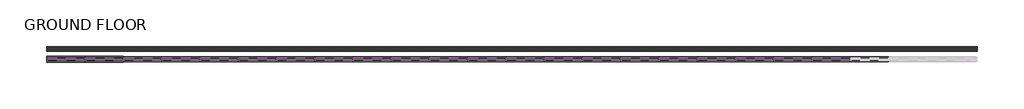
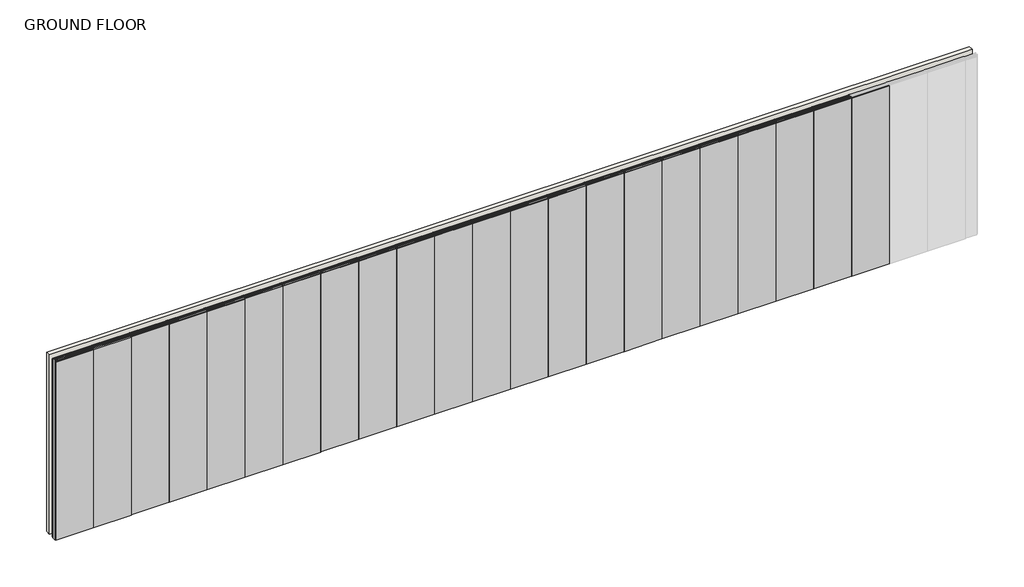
# One storey, part 1 of 2: 63 members, 22 plates, 1 wall.
"""IFC4 building model written with IfcOpenShell, lengths in millimetres."""

import ifcopenshell
import ifcopenshell.guid

model = None  # the IFC model being written
_history = None  # IfcOwnerHistory: only IFC2X3 demands one
_inside = {}  # id of a spatial element -> (the spatial element, [elements in it])
_under = {}  # id of a project, library or spatial element -> (it, [spatial elements below it])
_declared = {}  # id of a project -> (the project, [libraries it declares])
_typed = {}  # id of a type object -> (the type object, [elements of that type])
_made_of = {}  # id of a material, layer set ... -> (it, [elements and type objects made of it])


def new_model(schema):
    """Start an empty IFC model of exactly this schema.

    Asked for "IFC4X3", IfcOpenShell would pick the latest addendum, in which some entities
    have other attributes; the version numbers below select the first issue.
    IFC2X3 requires an IfcOwnerHistory on every rooted entity: one is made here for all.
    """
    global model, _history
    if schema == "IFC4X3":
        model = ifcopenshell.file(schema_version=(4, 3, 0, 0))
    else:
        model = ifcopenshell.file(schema=schema)
    _inside.clear()
    _under.clear()
    _declared.clear()
    _typed.clear()
    _made_of.clear()
    _history = None
    if model.schema == "IFC2X3":
        org = make("IfcOrganization", Name="unknown")
        user = make(
            "IfcPersonAndOrganization",
            ThePerson=make("IfcPerson", FamilyName="unknown"),
            TheOrganization=org,
        )
        app = make(
            "IfcApplication",
            ApplicationDeveloper=org,
            Version="unknown",
            ApplicationFullName="unknown",
            ApplicationIdentifier="unknown",
        )
        _history = make(
            "IfcOwnerHistory",
            OwningUser=user,
            OwningApplication=app,
            ChangeAction="ADDED",
            CreationDate=0,
        )
    return model


def make(cls, **values):
    """One entity of the class cls with the attributes given. An attribute that is None is left unset."""
    return model.create_entity(
        cls, **{name: value for name, value in values.items() if value is not None}
    )


def rooted(cls, **values):
    """An entity with a GlobalId (a new one), such as an element, a storey or a relation."""
    return make(cls, GlobalId=ifcopenshell.guid.new(), OwnerHistory=_history, **values)


def si_unit(unit_type, name, prefix=None):
    """IfcSIUnit, for example si_unit("LENGTHUNIT", "METRE", prefix="MILLI")."""
    return make("IfcSIUnit", UnitType=unit_type, Prefix=prefix, Name=name)


def assignment(units):
    """IfcUnitAssignment: the units of a project."""
    return None if units is None else make("IfcUnitAssignment", Units=units)


def point(xyz):
    """IfcCartesianPoint."""
    return None if xyz is None else make("IfcCartesianPoint", Coordinates=xyz)


def direction(xyz):
    """IfcDirection."""
    return None if xyz is None else make("IfcDirection", DirectionRatios=xyz)


def frame(location, z_axis=None, x_axis=None):
    """IfcAxis2Placement3D, a coordinate frame: its origin and axes. An axis left out is left unset."""
    return make(
        "IfcAxis2Placement3D",
        Location=point(location),
        Axis=direction(z_axis),
        RefDirection=direction(x_axis),
    )


def origin():
    """The frame at (0, 0, 0) with its axes left unset."""
    return frame((0.0, 0.0, 0.0))


def origin_with_axes():
    """The frame at (0, 0, 0) with the z axis (0, 0, 1) and the x axis (1, 0, 0) written out."""
    return frame((0.0, 0.0, 0.0), z_axis=(0.0, 0.0, 1.0), x_axis=(1.0, 0.0, 0.0))


def place(relative_to, where):
    """IfcLocalPlacement: puts the frame where relative to a parent placement (None: the world)."""
    return make(
        "IfcLocalPlacement", PlacementRelTo=relative_to, RelativePlacement=where
    )


def context(
    kind, dimensions, precision=None, world=None, true_north=None, identifier=None
):
    """IfcGeometricRepresentationContext, for example the 3D "Model" context."""
    return make(
        "IfcGeometricRepresentationContext",
        ContextIdentifier=identifier,
        ContextType=kind,
        CoordinateSpaceDimension=dimensions,
        Precision=precision,
        WorldCoordinateSystem=world,
        TrueNorth=true_north,
    )


def project(units=None, contexts=None):
    """IfcProject with its units and contexts."""
    return rooted(
        "IfcProject",
        Name="project",
        RepresentationContexts=contexts,
        UnitsInContext=assignment(units),
    )


def spatial(cls, under=None, at=None, **own):
    """A site, building, storey or space (cls), placed at a placement, below another one or the project."""
    s = rooted(cls, ObjectPlacement=at, **own)
    if under is not None:
        _under.setdefault(under.id(), (under, []))[1].append(s)
    return s


def polyline(points):
    """IfcPolyline through the points."""
    return make("IfcPolyline", Points=[point(p) for p in points])


def outline(outer, holes=None, kind="AREA"):
    """IfcArbitraryClosedProfileDef: a profile drawn as a closed curve; with holes, ...WithVoids."""
    if holes is None:
        return make("IfcArbitraryClosedProfileDef", ProfileType=kind, OuterCurve=outer)
    return make(
        "IfcArbitraryProfileDefWithVoids",
        ProfileType=kind,
        OuterCurve=outer,
        InnerCurves=holes,
    )


def extrude(swept, where, along, depth):
    """IfcExtrudedAreaSolid: the profile swept, set in the frame where, extruded along a direction by depth."""
    return make(
        "IfcExtrudedAreaSolid",
        SweptArea=swept,
        Position=where,
        ExtrudedDirection=direction(along),
        Depth=depth,
    )


def shape(context_of_items, identifier, shape_type, items):
    """IfcShapeRepresentation: the items that make up one representation, for example the "Body"."""
    return make(
        "IfcShapeRepresentation",
        ContextOfItems=context_of_items,
        RepresentationIdentifier=identifier,
        RepresentationType=shape_type,
        Items=items,
    )


def source(mapping_origin, context_of_items, identifier, shape_type, items):
    """IfcRepresentationMap: a shape defined once, which mapped items show again and again."""
    return make(
        "IfcRepresentationMap",
        MappingOrigin=mapping_origin,
        MappedRepresentation=shape(context_of_items, identifier, shape_type, items),
    )


def transform(
    local_origin,
    x_axis=None,
    y_axis=None,
    z_axis=None,
    scale=None,
    scale2=None,
    scale3=None,
    uniform=True,
):
    """IfcCartesianTransformationOperator3D, or its non-uniform kind. x_axis, y_axis, z_axis: its Axis1, 2, 3."""
    if uniform:
        return make(
            "IfcCartesianTransformationOperator3D",
            Axis1=direction(x_axis),
            Axis2=direction(y_axis),
            LocalOrigin=point(local_origin),
            Scale=scale,
            Axis3=direction(z_axis),
        )
    return make(
        "IfcCartesianTransformationOperator3DnonUniform",
        Axis1=direction(x_axis),
        Axis2=direction(y_axis),
        LocalOrigin=point(local_origin),
        Scale=scale,
        Axis3=direction(z_axis),
        Scale2=scale2,
        Scale3=scale3,
    )


def mapped(mapping_source, mapping_target):
    """IfcMappedItem: shows the shape of a source again, moved by a transform."""
    return make(
        "IfcMappedItem", MappingSource=mapping_source, MappingTarget=mapping_target
    )


def made_of(thing, what):
    """Note that an element or type object is made of a material, layer set ...; save() writes the relation."""
    if what is not None:
        _made_of.setdefault(what.id(), (what, []))[1].append(thing)
    return thing


def element(
    cls,
    number,
    at=None,
    inside=None,
    cuts=None,
    type_object=None,
    material=None,
    context=None,
    identifier="Body",
    shape_type=None,
    held_by="IfcProductDefinitionShape",
    body=None,
    shapes=None,
    **own,
):
    """One element of the class cls, such as IfcWall. Its Tag is "e" and its number.

    at: its placement. inside: the storey or other place that contains it. cuts: it is an
    opening in that element (IfcRelVoidsElement). A single representation is given by context,
    identifier, shape_type and body (its items); several are given by shapes. held_by: the class
    of the entity that holds the representations. save() writes the other relations.
    """
    e = rooted(cls, Tag="e%d" % number, ObjectPlacement=at, **own)
    if body is not None:
        shapes = [shape(context, identifier, shape_type, body)]
    if shapes is not None:
        e.Representation = make(held_by, Representations=shapes)
    if inside is not None:
        _inside.setdefault(inside.id(), (inside, []))[1].append(e)
    if cuts is not None:
        rooted(
            "IfcRelVoidsElement", RelatingBuildingElement=cuts, RelatedOpeningElement=e
        )
    if type_object is not None:
        _typed.setdefault(type_object.id(), (type_object, []))[1].append(e)
    return made_of(e, material)


def aggregate(whole, parts):
    """IfcRelAggregates: a whole, such as a stair, and the parts it consists of."""
    return rooted("IfcRelAggregates", RelatingObject=whole, RelatedObjects=parts)


def save(model, path):
    """Write the relations noted so far, then the file.

    IfcRelAggregates (storeys below a building ...), IfcRelContainedInSpatialStructure (elements
    in a storey), IfcRelDefinesByType, IfcRelAssociatesMaterial and IfcRelDeclares: one each for
    every whole, place, type object, material and project.
    """
    for whole, parts in _under.values():
        aggregate(whole, parts)
    for where, things in _inside.values():
        rooted(
            "IfcRelContainedInSpatialStructure",
            RelatedElements=things,
            RelatingStructure=where,
        )
    for kind, things in _typed.values():
        rooted("IfcRelDefinesByType", RelatedObjects=things, RelatingType=kind)
    for what, things in _made_of.values():
        rooted("IfcRelAssociatesMaterial", RelatedObjects=things, RelatingMaterial=what)
    for by, libraries in _declared.values():
        rooted("IfcRelDeclares", RelatingContext=by, RelatedDefinitions=libraries)
    model.write(path)


def rectangular_mullion_stud_mullion_51mm_2ef0a27f(model_context):
    return source(origin(), model_context, "Body", "SweptSolid", [
        extrude(outline(polyline([(-19.0, 17.5), (-19.0, 25.5), (0.0, 25.5), (0.0, -25.5), (-19.0, -25.5), (-19.0, -17.5), (-17.4, -17.5), (-17.4, -23.9), (-1.6, -23.9), (-1.6, 23.9), (-17.4, 23.9), (-17.4, 17.5), (-19.0, 17.5)])), frame((0.0, 0.0, -581.0000003), z_axis=(0.0, 0.0, 1.0), x_axis=(1.0, 0.0, 0.0)), (0.0, 0.0, 1.0), 581.0000003),
    ])


def rectangular_mullion_stud_mullion_51mm_a2fb9e12(model_context):
    return source(origin(), model_context, "Body", "SweptSolid", [
        extrude(outline(polyline([(-19.0, 17.5), (-19.0, 25.5), (0.0, 25.5), (0.0, -25.5), (-19.0, -25.5), (-19.0, -17.5), (-17.4, -17.5), (-17.4, -23.9), (-1.6, -23.9), (-1.6, 23.9), (-17.4, 23.9), (-17.4, 17.5), (-19.0, 17.5)])), frame((0.0, 0.0, -3000.0), z_axis=(0.0, 0.0, 1.0), x_axis=(1.0, 0.0, 0.0)), (0.0, 0.0, 1.0), 3000.0),
    ])


def rectangular_mullion_stud_mullion_51mm_92998b61(model_context):
    return source(origin(), model_context, "Body", "SweptSolid", [
        extrude(outline(polyline([(0.0, 17.5), (-1.6, 17.5), (-1.6, 23.9), (-17.4, 23.9), (-17.4, -23.9), (-1.6, -23.9), (-1.6, -17.5), (0.0, -17.5), (0.0, -25.5), (-19.0, -25.5), (-19.0, 25.5), (0.0, 25.5), (0.0, 17.5)])), frame((0.0, 0.0, -581.0000003), z_axis=(0.0, 0.0, 1.0), x_axis=(1.0, 0.0, 0.0)), (0.0, 0.0, 1.0), 581.0000003),
    ])


def rectangular_mullion_stud_mullion_51mm_8a3d9f1b(model_context):
    return source(origin(), model_context, "Body", "SweptSolid", [
        extrude(outline(polyline([(9.5, 17.5), (7.9, 17.5), (7.9, 23.9), (-7.9, 23.9), (-7.9, -23.9), (7.9, -23.9), (7.9, -17.5), (9.5, -17.5), (9.5, -25.5), (-9.5, -25.5), (-9.5, 25.5), (9.5, 25.5), (9.5, 17.5)])), frame((0.0, 0.0, -3000.0), z_axis=(0.0, 0.0, 1.0), x_axis=(1.0, 0.0, 0.0)), (0.0, 0.0, 1.0), 3000.0),
    ])


def plate_2_layer_drywall_panels_2_layer_12mm_thick_drywall_9ebc670e(model_context):
    return source(origin(), model_context, "Body", "SweptSolid", [
        extrude(outline(polyline([(299.2, 25.5), (-299.2, 25.5), (-299.2, 37.5), (299.2, 37.5), (299.2, 25.5)])), origin_with_axes(), (0.0, 0.0, 1.0), 2979.4),
        extrude(outline(polyline([(299.2, -25.5), (299.2, -37.5), (-299.2, -37.5), (-299.2, -25.5), (299.2, -25.5)])), origin_with_axes(), (0.0, 0.0, 1.0), 2979.4),
    ])


def plate_2_layer_drywall_panels_2_layer_15mm_drywall_panels_7b1b0b35(model_context):
    return source(origin(), model_context, "Body", "SweptSolid", [
        extrude(outline(polyline([(299.2000002, 31.5), (-299.2000002, 31.5), (-299.2000002, 46.5), (299.2000002, 46.5), (299.2000002, 31.5)])), origin_with_axes(), (0.0, 0.0, 1.0), 2979.4),
        extrude(outline(polyline([(299.2000002, -31.5), (299.2000002, -46.5), (-299.2000002, -46.5), (-299.2000002, -31.5), (299.2000002, -31.5)])), origin_with_axes(), (0.0, 0.0, 1.0), 2979.4),
    ])


model = new_model("IFC4")

# Units and contexts
model_context = context("Model", 3, world=origin())
ifc_project = project(units=[si_unit("LENGTHUNIT", "METRE", prefix="MILLI")], contexts=[model_context])

# Site, building, storey
site = spatial("IfcSite", under=ifc_project)
building = spatial("IfcBuilding", under=site)
storey = spatial("IfcBuildingStorey", under=building, Name="GROUND FLOOR", Elevation=0.0)

# Members
placement = place(None, origin())
rectangular_mullion_stud_mullion_51mm_shape = rectangular_mullion_stud_mullion_51mm_2ef0a27f(model_context)
element("IfcMember", 1, ObjectType="Rectangular Mullion : Stud Mullion - 51mm", at=placement, inside=storey, context=model_context, shape_type="MappedRepresentation", body=[
    mapped(rectangular_mullion_stud_mullion_51mm_shape, transform((61654.5186508, -1259.4010443, 0.0), x_axis=(0.0, 0.0, -1.0), y_axis=(0.0, -1.0, 0.0), z_axis=(-1.0, 0.0, 0.0))),
])
element("IfcMember", 2, ObjectType="Rectangular Mullion : Stud Mullion - 51mm", at=placement, inside=storey, context=model_context, shape_type="MappedRepresentation", body=[
    mapped(rectangular_mullion_stud_mullion_51mm_shape, transform((62254.5186511, -1259.4010443, 0.0), x_axis=(0.0, 0.0, -1.0), y_axis=(0.0, -1.0, 0.0), z_axis=(-1.0, 0.0, 0.0))),
])
element("IfcMember", 3, ObjectType="Rectangular Mullion : Stud Mullion - 51mm", at=placement, inside=storey, context=model_context, shape_type="MappedRepresentation", body=[
    mapped(rectangular_mullion_stud_mullion_51mm_shape, transform((62854.5186511, -1259.4010443, 0.0), x_axis=(0.0, 0.0, -1.0), y_axis=(0.0, -1.0, 0.0), z_axis=(-1.0, 0.0, 0.0))),
])
element("IfcMember", 4, ObjectType="Rectangular Mullion : Stud Mullion - 51mm", at=placement, inside=storey, context=model_context, shape_type="MappedRepresentation", body=[
    mapped(rectangular_mullion_stud_mullion_51mm_shape, transform((63454.5186511, -1259.4010443, 0.0), x_axis=(0.0, 0.0, -1.0), y_axis=(0.0, -1.0, 0.0), z_axis=(-1.0, 0.0, 0.0))),
])
element("IfcMember", 5, ObjectType="Rectangular Mullion : Stud Mullion - 51mm", at=placement, inside=storey, context=model_context, shape_type="MappedRepresentation", body=[
    mapped(rectangular_mullion_stud_mullion_51mm_shape, transform((64054.5186511, -1259.4010443, 0.0), x_axis=(0.0, 0.0, -1.0), y_axis=(0.0, -1.0, 0.0), z_axis=(-1.0, 0.0, 0.0))),
])
element("IfcMember", 6, ObjectType="Rectangular Mullion : Stud Mullion - 51mm", at=placement, inside=storey, context=model_context, shape_type="MappedRepresentation", body=[
    mapped(rectangular_mullion_stud_mullion_51mm_shape, transform((64654.5186511, -1259.4010443, 0.0), x_axis=(0.0, 0.0, -1.0), y_axis=(0.0, -1.0, 0.0), z_axis=(-1.0, 0.0, 0.0))),
])
element("IfcMember", 7, ObjectType="Rectangular Mullion : Stud Mullion - 51mm", at=placement, inside=storey, context=model_context, shape_type="MappedRepresentation", body=[
    mapped(rectangular_mullion_stud_mullion_51mm_shape, transform((65254.5186511, -1259.4010443, 0.0), x_axis=(0.0, 0.0, -1.0), y_axis=(0.0, -1.0, 0.0), z_axis=(-1.0, 0.0, 0.0))),
])
element("IfcMember", 8, ObjectType="Rectangular Mullion : Stud Mullion - 51mm", at=placement, inside=storey, context=model_context, shape_type="MappedRepresentation", body=[
    mapped(rectangular_mullion_stud_mullion_51mm_shape, transform((65854.5186511, -1259.4010443, 0.0), x_axis=(0.0, 0.0, -1.0), y_axis=(0.0, -1.0, 0.0), z_axis=(-1.0, 0.0, 0.0))),
])
element("IfcMember", 9, ObjectType="Rectangular Mullion : Stud Mullion - 51mm", at=placement, inside=storey, context=model_context, shape_type="MappedRepresentation", body=[
    mapped(rectangular_mullion_stud_mullion_51mm_shape, transform((66454.5186511, -1259.4010443, 0.0), x_axis=(0.0, 0.0, -1.0), y_axis=(0.0, -1.0, 0.0), z_axis=(-1.0, 0.0, 0.0))),
])
element("IfcMember", 10, ObjectType="Rectangular Mullion : Stud Mullion - 51mm", at=placement, inside=storey, context=model_context, shape_type="MappedRepresentation", body=[
    mapped(rectangular_mullion_stud_mullion_51mm_shape, transform((67054.5186511, -1259.4010443, 0.0), x_axis=(0.0, 0.0, -1.0), y_axis=(0.0, -1.0, 0.0), z_axis=(-1.0, 0.0, 0.0))),
])
element("IfcMember", 11, ObjectType="Rectangular Mullion : Stud Mullion - 51mm", at=placement, inside=storey, context=model_context, shape_type="MappedRepresentation", body=[
    mapped(rectangular_mullion_stud_mullion_51mm_shape, transform((67654.5186511, -1259.4010443, 0.0), x_axis=(0.0, 0.0, -1.0), y_axis=(0.0, -1.0, 0.0), z_axis=(-1.0, 0.0, 0.0))),
])
element("IfcMember", 12, ObjectType="Rectangular Mullion : Stud Mullion - 51mm", at=placement, inside=storey, context=model_context, shape_type="MappedRepresentation", body=[
    mapped(rectangular_mullion_stud_mullion_51mm_shape, transform((68254.5186511, -1259.4010443, 0.0), x_axis=(0.0, 0.0, -1.0), y_axis=(0.0, -1.0, 0.0), z_axis=(-1.0, 0.0, 0.0))),
])
element("IfcMember", 13, ObjectType="Rectangular Mullion : Stud Mullion - 51mm", at=placement, inside=storey, context=model_context, shape_type="MappedRepresentation", body=[
    mapped(rectangular_mullion_stud_mullion_51mm_shape, transform((68854.5186511, -1259.4010443, 0.0), x_axis=(0.0, 0.0, -1.0), y_axis=(0.0, -1.0, 0.0), z_axis=(-1.0, 0.0, 0.0))),
])
element("IfcMember", 14, ObjectType="Rectangular Mullion : Stud Mullion - 51mm", at=placement, inside=storey, context=model_context, shape_type="MappedRepresentation", body=[
    mapped(rectangular_mullion_stud_mullion_51mm_shape, transform((69454.5186511, -1259.4010443, 0.0), x_axis=(0.0, 0.0, -1.0), y_axis=(0.0, -1.0, 0.0), z_axis=(-1.0, 0.0, 0.0))),
])
element("IfcMember", 15, ObjectType="Rectangular Mullion : Stud Mullion - 51mm", at=placement, inside=storey, context=model_context, shape_type="MappedRepresentation", body=[
    mapped(rectangular_mullion_stud_mullion_51mm_shape, transform((70054.5186511, -1259.4010443, 0.0), x_axis=(0.0, 0.0, -1.0), y_axis=(0.0, -1.0, 0.0), z_axis=(-1.0, 0.0, 0.0))),
])
element("IfcMember", 16, ObjectType="Rectangular Mullion : Stud Mullion - 51mm", at=placement, inside=storey, context=model_context, shape_type="MappedRepresentation", body=[
    mapped(rectangular_mullion_stud_mullion_51mm_shape, transform((70654.5186511, -1259.4010443, 0.0), x_axis=(0.0, 0.0, -1.0), y_axis=(0.0, -1.0, 0.0), z_axis=(-1.0, 0.0, 0.0))),
])
element("IfcMember", 17, ObjectType="Rectangular Mullion : Stud Mullion - 51mm", at=placement, inside=storey, context=model_context, shape_type="MappedRepresentation", body=[
    mapped(rectangular_mullion_stud_mullion_51mm_shape, transform((71254.5186511, -1259.4010443, 0.0), x_axis=(0.0, 0.0, -1.0), y_axis=(0.0, -1.0, 0.0), z_axis=(-1.0, 0.0, 0.0))),
])
element("IfcMember", 18, ObjectType="Rectangular Mullion : Stud Mullion - 51mm", at=placement, inside=storey, context=model_context, shape_type="MappedRepresentation", body=[
    mapped(rectangular_mullion_stud_mullion_51mm_shape, transform((71854.5186511, -1259.4010443, 0.0), x_axis=(0.0, 0.0, -1.0), y_axis=(0.0, -1.0, 0.0), z_axis=(-1.0, 0.0, 0.0))),
])
element("IfcMember", 19, ObjectType="Rectangular Mullion : Stud Mullion - 51mm", at=placement, inside=storey, context=model_context, shape_type="MappedRepresentation", body=[
    mapped(rectangular_mullion_stud_mullion_51mm_shape, transform((72454.5186511, -1259.4010443, 0.0), x_axis=(0.0, 0.0, -1.0), y_axis=(0.0, -1.0, 0.0), z_axis=(-1.0, 0.0, 0.0))),
])
element("IfcMember", 20, ObjectType="Rectangular Mullion : Stud Mullion - 51mm", at=placement, inside=storey, context=model_context, shape_type="MappedRepresentation", body=[
    mapped(rectangular_mullion_stud_mullion_51mm_shape, transform((73054.5186511, -1259.4010443, 0.0), x_axis=(0.0, 0.0, -1.0), y_axis=(0.0, -1.0, 0.0), z_axis=(-1.0, 0.0, 0.0))),
])
element("IfcMember", 21, ObjectType="Rectangular Mullion : Stud Mullion - 51mm", at=placement, inside=storey, context=model_context, shape_type="MappedRepresentation", body=[
    mapped(rectangular_mullion_stud_mullion_51mm_shape, transform((73654.5186511, -1259.4010443, 0.0), x_axis=(0.0, 0.0, -1.0), y_axis=(0.0, -1.0, 0.0), z_axis=(-1.0, 0.0, 0.0))),
])
rectangular_mullion_stud_mullion_51mm_2_shape = rectangular_mullion_stud_mullion_51mm_a2fb9e12(model_context)
element("IfcMember", 22, ObjectType="Rectangular Mullion : Stud Mullion - 51mm", at=placement, inside=storey, context=model_context, shape_type="MappedRepresentation", body=[
    mapped(rectangular_mullion_stud_mullion_51mm_2_shape, transform((61635.5186508, -1259.4010443, 3000.0), x_axis=(-1.0, 0.0, 0.0), y_axis=(0.0, -1.0, 0.0), z_axis=(0.0, 0.0, 1.0))),
])
rectangular_mullion_stud_mullion_51mm_3_shape = rectangular_mullion_stud_mullion_51mm_92998b61(model_context)
element("IfcMember", 23, ObjectType="Rectangular Mullion : Stud Mullion - 51mm", at=placement, inside=storey, context=model_context, shape_type="MappedRepresentation", body=[
    mapped(rectangular_mullion_stud_mullion_51mm_3_shape, transform((62235.5186511, -1259.4010443, 3000.0), x_axis=(0.0, 0.0, 1.0), y_axis=(0.0, -1.0, 0.0), z_axis=(1.0, 0.0, 0.0))),
])
element("IfcMember", 24, ObjectType="Rectangular Mullion : Stud Mullion - 51mm", at=placement, inside=storey, context=model_context, shape_type="MappedRepresentation", body=[
    mapped(rectangular_mullion_stud_mullion_51mm_3_shape, transform((62835.5186511, -1259.4010443, 3000.0), x_axis=(0.0, 0.0, 1.0), y_axis=(0.0, -1.0, 0.0), z_axis=(1.0, 0.0, 0.0))),
])
element("IfcMember", 25, ObjectType="Rectangular Mullion : Stud Mullion - 51mm", at=placement, inside=storey, context=model_context, shape_type="MappedRepresentation", body=[
    mapped(rectangular_mullion_stud_mullion_51mm_3_shape, transform((63435.5186511, -1259.4010443, 3000.0), x_axis=(0.0, 0.0, 1.0), y_axis=(0.0, -1.0, 0.0), z_axis=(1.0, 0.0, 0.0))),
])
element("IfcMember", 26, ObjectType="Rectangular Mullion : Stud Mullion - 51mm", at=placement, inside=storey, context=model_context, shape_type="MappedRepresentation", body=[
    mapped(rectangular_mullion_stud_mullion_51mm_3_shape, transform((64035.5186511, -1259.4010443, 3000.0), x_axis=(0.0, 0.0, 1.0), y_axis=(0.0, -1.0, 0.0), z_axis=(1.0, 0.0, 0.0))),
])
element("IfcMember", 27, ObjectType="Rectangular Mullion : Stud Mullion - 51mm", at=placement, inside=storey, context=model_context, shape_type="MappedRepresentation", body=[
    mapped(rectangular_mullion_stud_mullion_51mm_3_shape, transform((64635.5186511, -1259.4010443, 3000.0), x_axis=(0.0, 0.0, 1.0), y_axis=(0.0, -1.0, 0.0), z_axis=(1.0, 0.0, 0.0))),
])
element("IfcMember", 28, ObjectType="Rectangular Mullion : Stud Mullion - 51mm", at=placement, inside=storey, context=model_context, shape_type="MappedRepresentation", body=[
    mapped(rectangular_mullion_stud_mullion_51mm_3_shape, transform((65235.5186511, -1259.4010443, 3000.0), x_axis=(0.0, 0.0, 1.0), y_axis=(0.0, -1.0, 0.0), z_axis=(1.0, 0.0, 0.0))),
])
element("IfcMember", 29, ObjectType="Rectangular Mullion : Stud Mullion - 51mm", at=placement, inside=storey, context=model_context, shape_type="MappedRepresentation", body=[
    mapped(rectangular_mullion_stud_mullion_51mm_3_shape, transform((65835.5186511, -1259.4010443, 3000.0), x_axis=(0.0, 0.0, 1.0), y_axis=(0.0, -1.0, 0.0), z_axis=(1.0, 0.0, 0.0))),
])
element("IfcMember", 30, ObjectType="Rectangular Mullion : Stud Mullion - 51mm", at=placement, inside=storey, context=model_context, shape_type="MappedRepresentation", body=[
    mapped(rectangular_mullion_stud_mullion_51mm_3_shape, transform((66435.5186511, -1259.4010443, 3000.0), x_axis=(0.0, 0.0, 1.0), y_axis=(0.0, -1.0, 0.0), z_axis=(1.0, 0.0, 0.0))),
])
element("IfcMember", 31, ObjectType="Rectangular Mullion : Stud Mullion - 51mm", at=placement, inside=storey, context=model_context, shape_type="MappedRepresentation", body=[
    mapped(rectangular_mullion_stud_mullion_51mm_3_shape, transform((67035.5186511, -1259.4010443, 3000.0), x_axis=(0.0, 0.0, 1.0), y_axis=(0.0, -1.0, 0.0), z_axis=(1.0, 0.0, 0.0))),
])
element("IfcMember", 32, ObjectType="Rectangular Mullion : Stud Mullion - 51mm", at=placement, inside=storey, context=model_context, shape_type="MappedRepresentation", body=[
    mapped(rectangular_mullion_stud_mullion_51mm_3_shape, transform((67635.5186511, -1259.4010443, 3000.0), x_axis=(0.0, 0.0, 1.0), y_axis=(0.0, -1.0, 0.0), z_axis=(1.0, 0.0, 0.0))),
])
element("IfcMember", 33, ObjectType="Rectangular Mullion : Stud Mullion - 51mm", at=placement, inside=storey, context=model_context, shape_type="MappedRepresentation", body=[
    mapped(rectangular_mullion_stud_mullion_51mm_3_shape, transform((68235.5186511, -1259.4010443, 3000.0), x_axis=(0.0, 0.0, 1.0), y_axis=(0.0, -1.0, 0.0), z_axis=(1.0, 0.0, 0.0))),
])
element("IfcMember", 34, ObjectType="Rectangular Mullion : Stud Mullion - 51mm", at=placement, inside=storey, context=model_context, shape_type="MappedRepresentation", body=[
    mapped(rectangular_mullion_stud_mullion_51mm_3_shape, transform((68835.5186511, -1259.4010443, 3000.0), x_axis=(0.0, 0.0, 1.0), y_axis=(0.0, -1.0, 0.0), z_axis=(1.0, 0.0, 0.0))),
])
element("IfcMember", 35, ObjectType="Rectangular Mullion : Stud Mullion - 51mm", at=placement, inside=storey, context=model_context, shape_type="MappedRepresentation", body=[
    mapped(rectangular_mullion_stud_mullion_51mm_3_shape, transform((69435.5186511, -1259.4010443, 3000.0), x_axis=(0.0, 0.0, 1.0), y_axis=(0.0, -1.0, 0.0), z_axis=(1.0, 0.0, 0.0))),
])
element("IfcMember", 36, ObjectType="Rectangular Mullion : Stud Mullion - 51mm", at=placement, inside=storey, context=model_context, shape_type="MappedRepresentation", body=[
    mapped(rectangular_mullion_stud_mullion_51mm_3_shape, transform((70035.5186511, -1259.4010443, 3000.0), x_axis=(0.0, 0.0, 1.0), y_axis=(0.0, -1.0, 0.0), z_axis=(1.0, 0.0, 0.0))),
])
element("IfcMember", 37, ObjectType="Rectangular Mullion : Stud Mullion - 51mm", at=placement, inside=storey, context=model_context, shape_type="MappedRepresentation", body=[
    mapped(rectangular_mullion_stud_mullion_51mm_3_shape, transform((70635.5186511, -1259.4010443, 3000.0), x_axis=(0.0, 0.0, 1.0), y_axis=(0.0, -1.0, 0.0), z_axis=(1.0, 0.0, 0.0))),
])
element("IfcMember", 38, ObjectType="Rectangular Mullion : Stud Mullion - 51mm", at=placement, inside=storey, context=model_context, shape_type="MappedRepresentation", body=[
    mapped(rectangular_mullion_stud_mullion_51mm_3_shape, transform((71235.5186511, -1259.4010443, 3000.0), x_axis=(0.0, 0.0, 1.0), y_axis=(0.0, -1.0, 0.0), z_axis=(1.0, 0.0, 0.0))),
])
element("IfcMember", 39, ObjectType="Rectangular Mullion : Stud Mullion - 51mm", at=placement, inside=storey, context=model_context, shape_type="MappedRepresentation", body=[
    mapped(rectangular_mullion_stud_mullion_51mm_3_shape, transform((71835.5186511, -1259.4010443, 3000.0), x_axis=(0.0, 0.0, 1.0), y_axis=(0.0, -1.0, 0.0), z_axis=(1.0, 0.0, 0.0))),
])
element("IfcMember", 40, ObjectType="Rectangular Mullion : Stud Mullion - 51mm", at=placement, inside=storey, context=model_context, shape_type="MappedRepresentation", body=[
    mapped(rectangular_mullion_stud_mullion_51mm_3_shape, transform((72435.5186511, -1259.4010443, 3000.0), x_axis=(0.0, 0.0, 1.0), y_axis=(0.0, -1.0, 0.0), z_axis=(1.0, 0.0, 0.0))),
])
element("IfcMember", 41, ObjectType="Rectangular Mullion : Stud Mullion - 51mm", at=placement, inside=storey, context=model_context, shape_type="MappedRepresentation", body=[
    mapped(rectangular_mullion_stud_mullion_51mm_3_shape, transform((73035.5186511, -1259.4010443, 3000.0), x_axis=(0.0, 0.0, 1.0), y_axis=(0.0, -1.0, 0.0), z_axis=(1.0, 0.0, 0.0))),
])
element("IfcMember", 42, ObjectType="Rectangular Mullion : Stud Mullion - 51mm", at=placement, inside=storey, context=model_context, shape_type="MappedRepresentation", body=[
    mapped(rectangular_mullion_stud_mullion_51mm_3_shape, transform((73635.5186511, -1259.4010443, 3000.0), x_axis=(0.0, 0.0, 1.0), y_axis=(0.0, -1.0, 0.0), z_axis=(1.0, 0.0, 0.0))),
])
element("IfcMember", 43, ObjectType="Rectangular Mullion : Stud Mullion - 51mm", at=placement, inside=storey, context=model_context, shape_type="MappedRepresentation", body=[
    mapped(rectangular_mullion_stud_mullion_51mm_3_shape, transform((74235.5186511, -1259.4010443, 3000.0), x_axis=(0.0, 0.0, 1.0), y_axis=(0.0, -1.0, 0.0), z_axis=(1.0, 0.0, 0.0))),
])
rectangular_mullion_stud_mullion_51mm_4_shape = rectangular_mullion_stud_mullion_51mm_8a3d9f1b(model_context)
element("IfcMember", 44, ObjectType="Rectangular Mullion : Stud Mullion - 51mm", at=placement, inside=storey, context=model_context, shape_type="MappedRepresentation", body=[
    mapped(rectangular_mullion_stud_mullion_51mm_4_shape, transform((62245.0186511, -1259.4010443, 0.0), x_axis=(1.0, 0.0, 0.0), y_axis=(0.0, -1.0, 0.0), z_axis=(0.0, 0.0, -1.0))),
])
element("IfcMember", 45, ObjectType="Rectangular Mullion : Stud Mullion - 51mm", at=placement, inside=storey, context=model_context, shape_type="MappedRepresentation", body=[
    mapped(rectangular_mullion_stud_mullion_51mm_4_shape, transform((62845.0186511, -1259.4010443, 0.0), x_axis=(1.0, 0.0, 0.0), y_axis=(0.0, -1.0, 0.0), z_axis=(0.0, 0.0, -1.0))),
])
element("IfcMember", 46, ObjectType="Rectangular Mullion : Stud Mullion - 51mm", at=placement, inside=storey, context=model_context, shape_type="MappedRepresentation", body=[
    mapped(rectangular_mullion_stud_mullion_51mm_4_shape, transform((63445.0186511, -1259.4010443, 0.0), x_axis=(1.0, 0.0, 0.0), y_axis=(0.0, -1.0, 0.0), z_axis=(0.0, 0.0, -1.0))),
])
element("IfcMember", 47, ObjectType="Rectangular Mullion : Stud Mullion - 51mm", at=placement, inside=storey, context=model_context, shape_type="MappedRepresentation", body=[
    mapped(rectangular_mullion_stud_mullion_51mm_4_shape, transform((64045.0186511, -1259.4010443, 0.0), x_axis=(1.0, 0.0, 0.0), y_axis=(0.0, -1.0, 0.0), z_axis=(0.0, 0.0, -1.0))),
])
element("IfcMember", 48, ObjectType="Rectangular Mullion : Stud Mullion - 51mm", at=placement, inside=storey, context=model_context, shape_type="MappedRepresentation", body=[
    mapped(rectangular_mullion_stud_mullion_51mm_4_shape, transform((64645.0186511, -1259.4010443, 0.0), x_axis=(1.0, 0.0, 0.0), y_axis=(0.0, -1.0, 0.0), z_axis=(0.0, 0.0, -1.0))),
])
element("IfcMember", 49, ObjectType="Rectangular Mullion : Stud Mullion - 51mm", at=placement, inside=storey, context=model_context, shape_type="MappedRepresentation", body=[
    mapped(rectangular_mullion_stud_mullion_51mm_4_shape, transform((65245.0186511, -1259.4010443, 0.0), x_axis=(1.0, 0.0, 0.0), y_axis=(0.0, -1.0, 0.0), z_axis=(0.0, 0.0, -1.0))),
])
element("IfcMember", 50, ObjectType="Rectangular Mullion : Stud Mullion - 51mm", at=placement, inside=storey, context=model_context, shape_type="MappedRepresentation", body=[
    mapped(rectangular_mullion_stud_mullion_51mm_4_shape, transform((65845.0186511, -1259.4010443, 0.0), x_axis=(1.0, 0.0, 0.0), y_axis=(0.0, -1.0, 0.0), z_axis=(0.0, 0.0, -1.0))),
])
element("IfcMember", 51, ObjectType="Rectangular Mullion : Stud Mullion - 51mm", at=placement, inside=storey, context=model_context, shape_type="MappedRepresentation", body=[
    mapped(rectangular_mullion_stud_mullion_51mm_4_shape, transform((66445.0186511, -1259.4010443, 0.0), x_axis=(1.0, 0.0, 0.0), y_axis=(0.0, -1.0, 0.0), z_axis=(0.0, 0.0, -1.0))),
])
element("IfcMember", 52, ObjectType="Rectangular Mullion : Stud Mullion - 51mm", at=placement, inside=storey, context=model_context, shape_type="MappedRepresentation", body=[
    mapped(rectangular_mullion_stud_mullion_51mm_4_shape, transform((67045.0186511, -1259.4010443, 0.0), x_axis=(1.0, 0.0, 0.0), y_axis=(0.0, -1.0, 0.0), z_axis=(0.0, 0.0, -1.0))),
])
element("IfcMember", 53, ObjectType="Rectangular Mullion : Stud Mullion - 51mm", at=placement, inside=storey, context=model_context, shape_type="MappedRepresentation", body=[
    mapped(rectangular_mullion_stud_mullion_51mm_4_shape, transform((67645.0186511, -1259.4010443, 0.0), x_axis=(1.0, 0.0, 0.0), y_axis=(0.0, -1.0, 0.0), z_axis=(0.0, 0.0, -1.0))),
])
element("IfcMember", 54, ObjectType="Rectangular Mullion : Stud Mullion - 51mm", at=placement, inside=storey, context=model_context, shape_type="MappedRepresentation", body=[
    mapped(rectangular_mullion_stud_mullion_51mm_4_shape, transform((68245.0186511, -1259.4010443, 0.0), x_axis=(1.0, 0.0, 0.0), y_axis=(0.0, -1.0, 0.0), z_axis=(0.0, 0.0, -1.0))),
])
element("IfcMember", 55, ObjectType="Rectangular Mullion : Stud Mullion - 51mm", at=placement, inside=storey, context=model_context, shape_type="MappedRepresentation", body=[
    mapped(rectangular_mullion_stud_mullion_51mm_4_shape, transform((68845.0186511, -1259.4010443, 0.0), x_axis=(1.0, 0.0, 0.0), y_axis=(0.0, -1.0, 0.0), z_axis=(0.0, 0.0, -1.0))),
])
element("IfcMember", 56, ObjectType="Rectangular Mullion : Stud Mullion - 51mm", at=placement, inside=storey, context=model_context, shape_type="MappedRepresentation", body=[
    mapped(rectangular_mullion_stud_mullion_51mm_4_shape, transform((69445.0186511, -1259.4010443, 0.0), x_axis=(1.0, 0.0, 0.0), y_axis=(0.0, -1.0, 0.0), z_axis=(0.0, 0.0, -1.0))),
])
element("IfcMember", 57, ObjectType="Rectangular Mullion : Stud Mullion - 51mm", at=placement, inside=storey, context=model_context, shape_type="MappedRepresentation", body=[
    mapped(rectangular_mullion_stud_mullion_51mm_4_shape, transform((70045.0186511, -1259.4010443, 0.0), x_axis=(1.0, 0.0, 0.0), y_axis=(0.0, -1.0, 0.0), z_axis=(0.0, 0.0, -1.0))),
])
element("IfcMember", 58, ObjectType="Rectangular Mullion : Stud Mullion - 51mm", at=placement, inside=storey, context=model_context, shape_type="MappedRepresentation", body=[
    mapped(rectangular_mullion_stud_mullion_51mm_4_shape, transform((70645.0186511, -1259.4010443, 0.0), x_axis=(1.0, 0.0, 0.0), y_axis=(0.0, -1.0, 0.0), z_axis=(0.0, 0.0, -1.0))),
])
element("IfcMember", 59, ObjectType="Rectangular Mullion : Stud Mullion - 51mm", at=placement, inside=storey, context=model_context, shape_type="MappedRepresentation", body=[
    mapped(rectangular_mullion_stud_mullion_51mm_4_shape, transform((71245.0186511, -1259.4010443, 0.0), x_axis=(1.0, 0.0, 0.0), y_axis=(0.0, -1.0, 0.0), z_axis=(0.0, 0.0, -1.0))),
])
element("IfcMember", 60, ObjectType="Rectangular Mullion : Stud Mullion - 51mm", at=placement, inside=storey, context=model_context, shape_type="MappedRepresentation", body=[
    mapped(rectangular_mullion_stud_mullion_51mm_4_shape, transform((71845.0186511, -1259.4010443, 0.0), x_axis=(1.0, 0.0, 0.0), y_axis=(0.0, -1.0, 0.0), z_axis=(0.0, 0.0, -1.0))),
])
element("IfcMember", 61, ObjectType="Rectangular Mullion : Stud Mullion - 51mm", at=placement, inside=storey, context=model_context, shape_type="MappedRepresentation", body=[
    mapped(rectangular_mullion_stud_mullion_51mm_4_shape, transform((72445.0186511, -1259.4010443, 0.0), x_axis=(1.0, 0.0, 0.0), y_axis=(0.0, -1.0, 0.0), z_axis=(0.0, 0.0, -1.0))),
])
element("IfcMember", 62, ObjectType="Rectangular Mullion : Stud Mullion - 51mm", at=placement, inside=storey, context=model_context, shape_type="MappedRepresentation", body=[
    mapped(rectangular_mullion_stud_mullion_51mm_4_shape, transform((73045.0186511, -1259.4010443, 0.0), x_axis=(1.0, 0.0, 0.0), y_axis=(0.0, -1.0, 0.0), z_axis=(0.0, 0.0, -1.0))),
])
element("IfcMember", 63, ObjectType="Rectangular Mullion : Stud Mullion - 51mm", at=placement, inside=storey, context=model_context, shape_type="MappedRepresentation", body=[
    mapped(rectangular_mullion_stud_mullion_51mm_4_shape, transform((73645.0186511, -1259.4010443, 0.0), x_axis=(1.0, 0.0, 0.0), y_axis=(0.0, -1.0, 0.0), z_axis=(0.0, 0.0, -1.0))),
])

# Plates
plate_2_layer_drywall_panels_2_layer_12mm_thick_drywall_shape = plate_2_layer_drywall_panels_2_layer_12mm_thick_drywall_9ebc670e(model_context)
element("IfcPlate", 64, ObjectType="2 Layer - Drywall Panels : 2 Layer - 12mm thick Drywall Panels 76mm", at=placement, inside=storey, context=model_context, shape_type="MappedRepresentation", body=[
    mapped(plate_2_layer_drywall_panels_2_layer_12mm_thick_drywall_shape, transform((63136.3186511, -1259.4010443, 1.6), x_axis=(1.0, 0.0, 0.0), y_axis=(0.0, 1.0, 0.0), z_axis=(0.0, 0.0, 1.0))),
])
element("IfcPlate", 65, ObjectType="2 Layer - Drywall Panels : 2 Layer - 12mm thick Drywall Panels 76mm", at=placement, inside=storey, context=model_context, shape_type="MappedRepresentation", body=[
    mapped(plate_2_layer_drywall_panels_2_layer_12mm_thick_drywall_shape, transform((63736.3186511, -1259.4010443, 1.6), x_axis=(1.0, 0.0, 0.0), y_axis=(0.0, 1.0, 0.0), z_axis=(0.0, 0.0, 1.0))),
])
element("IfcPlate", 66, ObjectType="2 Layer - Drywall Panels : 2 Layer - 12mm thick Drywall Panels 76mm", at=placement, inside=storey, context=model_context, shape_type="MappedRepresentation", body=[
    mapped(plate_2_layer_drywall_panels_2_layer_12mm_thick_drywall_shape, transform((64336.3186511, -1259.4010443, 1.6), x_axis=(1.0, 0.0, 0.0), y_axis=(0.0, 1.0, 0.0), z_axis=(0.0, 0.0, 1.0))),
])
element("IfcPlate", 67, ObjectType="2 Layer - Drywall Panels : 2 Layer - 12mm thick Drywall Panels 76mm", at=placement, inside=storey, context=model_context, shape_type="MappedRepresentation", body=[
    mapped(plate_2_layer_drywall_panels_2_layer_12mm_thick_drywall_shape, transform((64936.3186511, -1259.4010443, 1.6), x_axis=(1.0, 0.0, 0.0), y_axis=(0.0, 1.0, 0.0), z_axis=(0.0, 0.0, 1.0))),
])
element("IfcPlate", 68, ObjectType="2 Layer - Drywall Panels : 2 Layer - 12mm thick Drywall Panels 76mm", at=placement, inside=storey, context=model_context, shape_type="MappedRepresentation", body=[
    mapped(plate_2_layer_drywall_panels_2_layer_12mm_thick_drywall_shape, transform((65536.3186511, -1259.4010443, 1.6), x_axis=(1.0, 0.0, 0.0), y_axis=(0.0, 1.0, 0.0), z_axis=(0.0, 0.0, 1.0))),
])
element("IfcPlate", 69, ObjectType="2 Layer - Drywall Panels : 2 Layer - 12mm thick Drywall Panels 76mm", at=placement, inside=storey, context=model_context, shape_type="MappedRepresentation", body=[
    mapped(plate_2_layer_drywall_panels_2_layer_12mm_thick_drywall_shape, transform((66136.3186511, -1259.4010443, 1.6), x_axis=(1.0, 0.0, 0.0), y_axis=(0.0, 1.0, 0.0), z_axis=(0.0, 0.0, 1.0))),
])
element("IfcPlate", 70, ObjectType="2 Layer - Drywall Panels : 2 Layer - 12mm thick Drywall Panels 76mm", at=placement, inside=storey, context=model_context, shape_type="MappedRepresentation", body=[
    mapped(plate_2_layer_drywall_panels_2_layer_12mm_thick_drywall_shape, transform((66736.3186511, -1259.4010443, 1.6), x_axis=(1.0, 0.0, 0.0), y_axis=(0.0, 1.0, 0.0), z_axis=(0.0, 0.0, 1.0))),
])
element("IfcPlate", 71, ObjectType="2 Layer - Drywall Panels : 2 Layer - 12mm thick Drywall Panels 76mm", at=placement, inside=storey, context=model_context, shape_type="MappedRepresentation", body=[
    mapped(plate_2_layer_drywall_panels_2_layer_12mm_thick_drywall_shape, transform((67336.3186511, -1259.4010443, 1.6), x_axis=(1.0, 0.0, 0.0), y_axis=(0.0, 1.0, 0.0), z_axis=(0.0, 0.0, 1.0))),
])
element("IfcPlate", 72, ObjectType="2 Layer - Drywall Panels : 2 Layer - 12mm thick Drywall Panels 76mm", at=placement, inside=storey, context=model_context, shape_type="MappedRepresentation", body=[
    mapped(plate_2_layer_drywall_panels_2_layer_12mm_thick_drywall_shape, transform((67936.3186511, -1259.4010443, 1.6), x_axis=(1.0, 0.0, 0.0), y_axis=(0.0, 1.0, 0.0), z_axis=(0.0, 0.0, 1.0))),
])
element("IfcPlate", 73, ObjectType="2 Layer - Drywall Panels : 2 Layer - 12mm thick Drywall Panels 76mm", at=placement, inside=storey, context=model_context, shape_type="MappedRepresentation", body=[
    mapped(plate_2_layer_drywall_panels_2_layer_12mm_thick_drywall_shape, transform((68536.3186511, -1259.4010443, 1.6), x_axis=(1.0, 0.0, 0.0), y_axis=(0.0, 1.0, 0.0), z_axis=(0.0, 0.0, 1.0))),
])
element("IfcPlate", 74, ObjectType="2 Layer - Drywall Panels : 2 Layer - 12mm thick Drywall Panels 76mm", at=placement, inside=storey, context=model_context, shape_type="MappedRepresentation", body=[
    mapped(plate_2_layer_drywall_panels_2_layer_12mm_thick_drywall_shape, transform((69136.3186511, -1259.4010443, 1.6), x_axis=(1.0, 0.0, 0.0), y_axis=(0.0, 1.0, 0.0), z_axis=(0.0, 0.0, 1.0))),
])
element("IfcPlate", 75, ObjectType="2 Layer - Drywall Panels : 2 Layer - 12mm thick Drywall Panels 76mm", at=placement, inside=storey, context=model_context, shape_type="MappedRepresentation", body=[
    mapped(plate_2_layer_drywall_panels_2_layer_12mm_thick_drywall_shape, transform((69736.3186511, -1259.4010443, 1.6), x_axis=(1.0, 0.0, 0.0), y_axis=(0.0, 1.0, 0.0), z_axis=(0.0, 0.0, 1.0))),
])
element("IfcPlate", 76, ObjectType="2 Layer - Drywall Panels : 2 Layer - 12mm thick Drywall Panels 76mm", at=placement, inside=storey, context=model_context, shape_type="MappedRepresentation", body=[
    mapped(plate_2_layer_drywall_panels_2_layer_12mm_thick_drywall_shape, transform((70336.3186511, -1259.4010443, 1.6), x_axis=(1.0, 0.0, 0.0), y_axis=(0.0, 1.0, 0.0), z_axis=(0.0, 0.0, 1.0))),
])
element("IfcPlate", 77, ObjectType="2 Layer - Drywall Panels : 2 Layer - 12mm thick Drywall Panels 76mm", at=placement, inside=storey, context=model_context, shape_type="MappedRepresentation", body=[
    mapped(plate_2_layer_drywall_panels_2_layer_12mm_thick_drywall_shape, transform((70936.3186511, -1259.4010443, 1.6), x_axis=(1.0, 0.0, 0.0), y_axis=(0.0, 1.0, 0.0), z_axis=(0.0, 0.0, 1.0))),
])
element("IfcPlate", 78, ObjectType="2 Layer - Drywall Panels : 2 Layer - 12mm thick Drywall Panels 76mm", at=placement, inside=storey, context=model_context, shape_type="MappedRepresentation", body=[
    mapped(plate_2_layer_drywall_panels_2_layer_12mm_thick_drywall_shape, transform((71536.3186511, -1259.4010443, 1.6), x_axis=(1.0, 0.0, 0.0), y_axis=(0.0, 1.0, 0.0), z_axis=(0.0, 0.0, 1.0))),
])
element("IfcPlate", 79, ObjectType="2 Layer - Drywall Panels : 2 Layer - 12mm thick Drywall Panels 76mm", at=placement, inside=storey, context=model_context, shape_type="MappedRepresentation", body=[
    mapped(plate_2_layer_drywall_panels_2_layer_12mm_thick_drywall_shape, transform((72136.3186511, -1259.4010443, 1.6), x_axis=(1.0, 0.0, 0.0), y_axis=(0.0, 1.0, 0.0), z_axis=(0.0, 0.0, 1.0))),
])
element("IfcPlate", 80, ObjectType="2 Layer - Drywall Panels : 2 Layer - 12mm thick Drywall Panels 76mm", at=placement, inside=storey, context=model_context, shape_type="MappedRepresentation", body=[
    mapped(plate_2_layer_drywall_panels_2_layer_12mm_thick_drywall_shape, transform((72736.3186511, -1259.4010443, 1.6), x_axis=(1.0, 0.0, 0.0), y_axis=(0.0, 1.0, 0.0), z_axis=(0.0, 0.0, 1.0))),
])
element("IfcPlate", 81, ObjectType="2 Layer - Drywall Panels : 2 Layer - 12mm thick Drywall Panels 76mm", at=placement, inside=storey, context=model_context, shape_type="MappedRepresentation", body=[
    mapped(plate_2_layer_drywall_panels_2_layer_12mm_thick_drywall_shape, transform((73336.3186511, -1259.4010443, 1.6), x_axis=(1.0, 0.0, 0.0), y_axis=(0.0, 1.0, 0.0), z_axis=(0.0, 0.0, 1.0))),
])
element("IfcPlate", 82, ObjectType="2 Layer - Drywall Panels : 2 Layer - 12mm thick Drywall Panels 76mm", at=placement, inside=storey, context=model_context, shape_type="MappedRepresentation", body=[
    mapped(plate_2_layer_drywall_panels_2_layer_12mm_thick_drywall_shape, transform((73936.3186511, -1259.4010443, 1.6), x_axis=(1.0, 0.0, 0.0), y_axis=(0.0, 1.0, 0.0), z_axis=(0.0, 0.0, 1.0))),
])
element("IfcPlate", 83, ObjectType="2 Layer - Drywall Panels : 2 Layer - 12mm thick Drywall Panels 76mm", at=placement, inside=storey, context=model_context, shape_type="MappedRepresentation", body=[
    mapped(plate_2_layer_drywall_panels_2_layer_12mm_thick_drywall_shape, transform((74536.3186511, -1259.4010443, 1.6), x_axis=(1.0, 0.0, 0.0), y_axis=(0.0, 1.0, 0.0), z_axis=(0.0, 0.0, 1.0))),
])
plate_2_layer_drywall_panels_2_layer_15mm_drywall_panels_shape = plate_2_layer_drywall_panels_2_layer_15mm_drywall_panels_7b1b0b35(model_context)
element("IfcPlate", 84, ObjectType="2 Layer - Drywall Panels : 2 Layer - 15mm Drywall Panels 93mm", at=placement, inside=storey, context=model_context, shape_type="MappedRepresentation", body=[
    mapped(plate_2_layer_drywall_panels_2_layer_15mm_drywall_panels_shape, transform((61936.318651, -1259.4010443, 1.6), x_axis=(1.0, 0.0, 0.0), y_axis=(0.0, 1.0, 0.0), z_axis=(0.0, 0.0, 1.0))),
])
element("IfcPlate", 85, ObjectType="2 Layer - Drywall Panels : 2 Layer - 15mm Drywall Panels 93mm", at=placement, inside=storey, context=model_context, shape_type="MappedRepresentation", body=[
    mapped(plate_2_layer_drywall_panels_2_layer_15mm_drywall_panels_shape, transform((62536.3186511, -1259.4010443, 1.6), x_axis=(1.0, 0.0, 0.0), y_axis=(0.0, 1.0, 0.0), z_axis=(0.0, 0.0, 1.0))),
])

# Wall
element("IfcWall", 86, ObjectType="PW02 - JUUMBO DryWALL 51/30 (Insulated)", at=placement, inside=storey, context=model_context, shape_type="SweptSolid", body=[
    extrude(outline(polyline([(76235.5186508, -1137.4010443), (61635.5186508, -1137.4010443), (61635.5186508, -1061.4010443), (76235.5186508, -1061.4010443), (76235.5186508, -1137.4010443)])), origin_with_axes(), (0.0, 0.0, 1.0), 3000.0),
])

save(model, "model.ifc")
